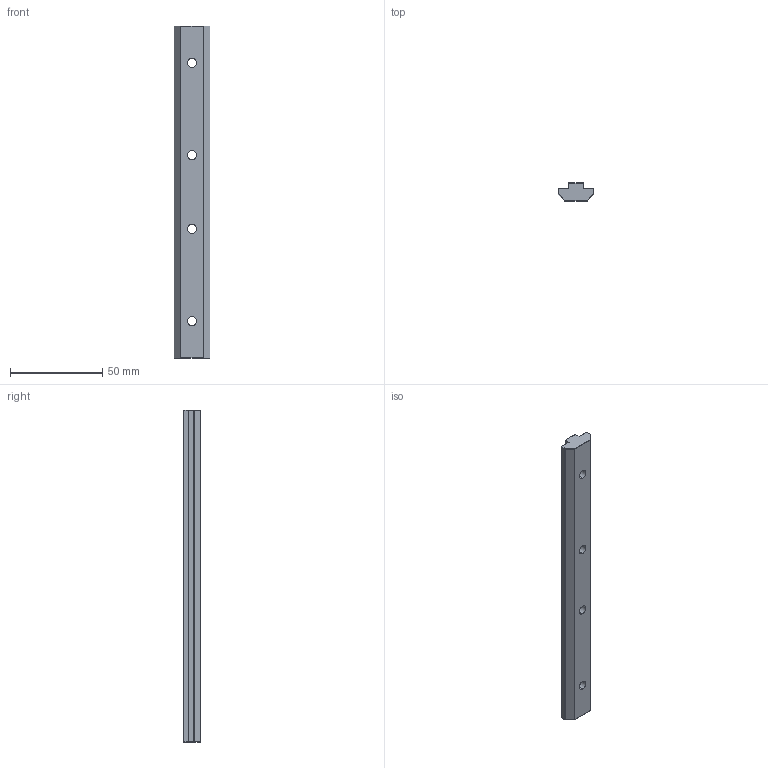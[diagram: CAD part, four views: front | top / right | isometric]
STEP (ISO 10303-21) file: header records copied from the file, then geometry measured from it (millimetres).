
FILE_DESCRIPTION (( 'STEP AP203' ), '1' );
FILE_NAME ('CP-JC40X40.STEP', '2018-03-15T12:59:29', ( '' ), ( '' ), 'SwSTEP 2.0', 'SolidWorks 2013', '' );
FILE_SCHEMA (( 'CONFIG_CONTROL_DESIGN' ));
Length unit declared in the file: millimetre
Products named in the file (1): CP-JC40X40
Bounding box: 19.5 x 9.5 x 180 mm (x, y, z)
Volume: 24464.2 mm3; surface area: 10324.2 mm2
Topology: 1 solids, 1 shells, 64 faces, 146 edges, 72 vertices
Faces by surface type: cylinder 36, sphere 16, plane 12
Entity records: 1759 total; most frequent: DIRECTION 324, CARTESIAN_POINT 283, ORIENTED_EDGE 268, EDGE_CURVE 134, AXIS2_PLACEMENT_3D 129, EDGE_LOOP 72, VERTEX_POINT 72, VECTOR 66
